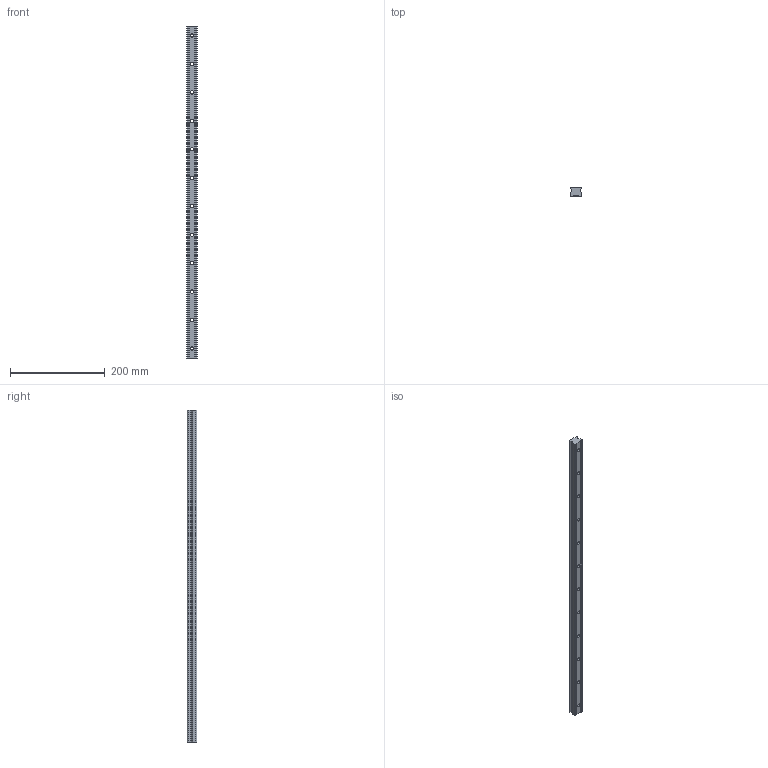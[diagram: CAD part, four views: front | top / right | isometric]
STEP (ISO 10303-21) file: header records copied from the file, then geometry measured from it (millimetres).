
FILE_DESCRIPTION (( 'STEP AP203' ), '1' );
FILE_NAME ('L1016.BL25-0700.step', '2019-06-12T12:05:28', ( '' ), ( '' ), 'SwSTEP 2.0', 'SolidWorks 2017', '' );
FILE_SCHEMA (( 'CONFIG_CONTROL_DESIGN' ));
Length unit declared in the file: millimetre
Products named in the file (1): L1016.BL25-0700
Bounding box: 23 x 19.2 x 700 mm (x, y, z)
Volume: 257654.1 mm3; surface area: 66934.5 mm2
Topology: 1 solids, 1 shells, 86 faces, 216 edges, 144 vertices
Faces by surface type: cylinder 52, plane 34
Entity records: 2749 total; most frequent: DIRECTION 494, CARTESIAN_POINT 447, ORIENTED_EDGE 432, EDGE_CURVE 216, AXIS2_PLACEMENT_3D 191, VERTEX_POINT 144, EDGE_LOOP 122, LINE 112
